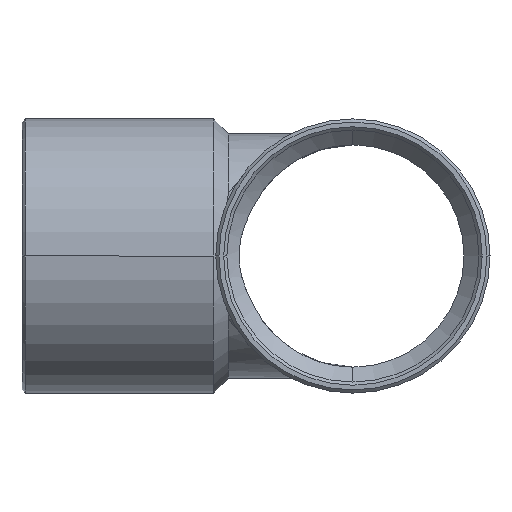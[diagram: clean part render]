
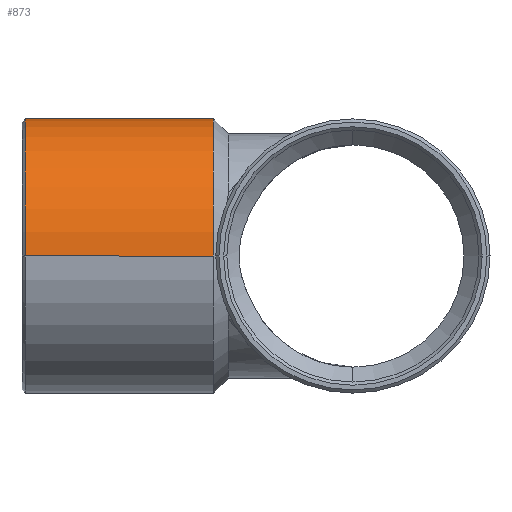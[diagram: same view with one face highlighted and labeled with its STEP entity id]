
A CAD part, left-side view. The second image highlights one B-rep face of the part: STEP entity #873.
In plain terms, the highlighted cylindrical face has radius 8.7 mm (diameter 17.4 mm), a partial arc.
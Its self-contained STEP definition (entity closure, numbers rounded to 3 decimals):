
#179=CARTESIAN_POINT('',(8.7,8.85,0.));
#180=VERTEX_POINT('',#179);
#188=CARTESIAN_POINT('',(0.,8.85,8.7));
#189=VERTEX_POINT('',#188);
#190=CARTESIAN_POINT('',(0.,8.85,0.0));
#191=DIRECTION('',(0.0,1.0,0.0));
#192=DIRECTION('',(-1.0,0.0,0.0));
#193=AXIS2_PLACEMENT_3D('',#190,#191,#192);
#194=CIRCLE('',#193,8.7);
#195=EDGE_CURVE('',#189,#180,#194,.T.);
#833=CARTESIAN_POINT('',(0.,14.925,0.0));
#834=DIRECTION('',(0.,1.0,0.0));
#835=DIRECTION('',(-1.0,0.0,0.0));
#836=AXIS2_PLACEMENT_3D('',#833,#834,#835);
#837=CYLINDRICAL_SURFACE('',#836,8.7);
#838=CARTESIAN_POINT('',(-8.7,8.85,0.0));
#839=VERTEX_POINT('',#838);
#840=CARTESIAN_POINT('',(-8.7,20.8,0.));
#841=VERTEX_POINT('',#840);
#842=CARTESIAN_POINT('',(-8.7,8.85,0.0));
#843=DIRECTION('',(0.0,1.0,0.0));
#844=VECTOR('',#843,11.95);
#845=LINE('',#842,#844);
#846=EDGE_CURVE('',#839,#841,#845,.T.);
#847=ORIENTED_EDGE('',*,*,#846,.F.);
#848=CARTESIAN_POINT('',(0.,8.85,0.0));
#849=DIRECTION('',(0.0,1.0,0.0));
#850=DIRECTION('',(-1.0,0.0,0.0));
#851=AXIS2_PLACEMENT_3D('',#848,#849,#850);
#852=CIRCLE('',#851,8.7);
#853=EDGE_CURVE('',#839,#189,#852,.T.);
#854=ORIENTED_EDGE('',*,*,#853,.T.);
#855=ORIENTED_EDGE('',*,*,#195,.T.);
#856=CARTESIAN_POINT('',(8.7,20.8,0.));
#857=VERTEX_POINT('',#856);
#858=CARTESIAN_POINT('',(8.7,20.8,0.));
#859=DIRECTION('',(0.0,-1.0,0.0));
#860=VECTOR('',#859,11.95);
#861=LINE('',#858,#860);
#862=EDGE_CURVE('',#857,#180,#861,.T.);
#863=ORIENTED_EDGE('',*,*,#862,.F.);
#864=CARTESIAN_POINT('',(0.,20.8,0.0));
#865=DIRECTION('',(0.0,1.0,0.0));
#866=DIRECTION('',(1.0,0.0,0.0));
#867=AXIS2_PLACEMENT_3D('',#864,#865,#866);
#868=CIRCLE('',#867,8.7);
#869=EDGE_CURVE('',#841,#857,#868,.T.);
#870=ORIENTED_EDGE('',*,*,#869,.F.);
#871=EDGE_LOOP('',(#847,#854,#855,#863,#870));
#872=FACE_OUTER_BOUND('',#871,.T.);
#873=ADVANCED_FACE('',(#872),#837,.T.);
